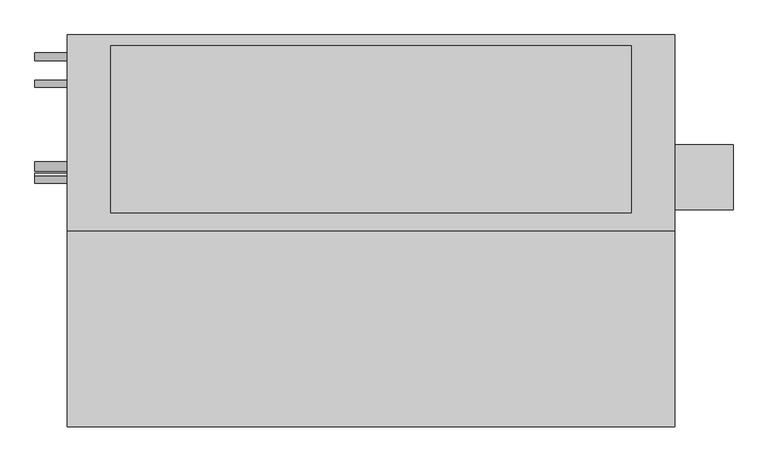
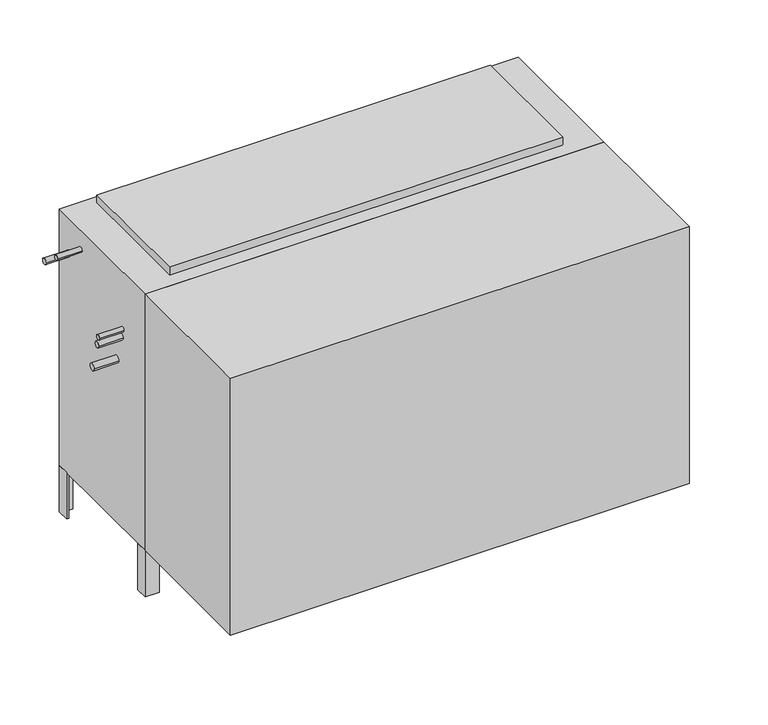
"""IFC4 building model written with IfcOpenShell, lengths in millimetres: proxy geometry, Concealed_High_Capacity_Vertical_Fan_Coil_Unit_-_42DDA_-_CARRIER_-_4-Pipe_LH_2022 : Size 20 - 277v/60Hz/1Ph - 4/2 Coil."""

from ifc_helpers import new_model, si_unit, point, frame, frame_2d, origin, origin_with_axes, place, context, project, spatial, polyline, circle_curve, trimmed, segment, composite_curve, outline, extrude, source, transform, mapped, element, save


def mechanical_equipment_18172840(model_context):
    return source(origin(), model_context, "Body", "SweptSolid", [
        extrude(outline(polyline([(863.6, -925.5125), (-558.8, -925.5125), (-558.8, -468.3125), (863.6, -468.3125), (863.6, -925.5125)])), origin_with_axes(), (0.0, 0.0, 1.0), 841.375),
        extrude(outline(polyline([(1000.125, -265.1125), (1000.125, -417.5125), (863.6, -417.5125), (863.6, -265.1125), (1000.125, -265.1125)])), frame((0.0, 0.0, 101.6), z_axis=(0.0, 0.0, 1.0), x_axis=(1.0, 0.0, 0.0)), (0.0, 0.0, 1.0), 152.4),
        extrude(outline(polyline([(863.6, -46.0375), (857.25, -46.0375), (857.25, -14.2875), (825.5, -14.2875), (825.5, -7.9375), (863.6, -7.9375), (863.6, -46.0375)])), frame((0.0, 0.0, -152.4), z_axis=(0.0, 0.0, 1.0), x_axis=(1.0, 0.0, 0.0)), (0.0, 0.0, 1.0), 152.4),
        extrude(outline(polyline([(-520.7, -7.9375), (-520.7, -14.2875), (-552.45, -14.2875), (-552.45, -46.0375), (-558.8, -46.0375), (-558.8, -7.9375), (-520.7, -7.9375)])), frame((0.0, 0.0, -152.4), z_axis=(0.0, 0.0, 1.0), x_axis=(1.0, 0.0, 0.0)), (0.0, 0.0, 1.0), 152.4),
        extrude(outline(polyline([(825.5, -468.3125), (825.5, -461.9625), (857.25, -461.9625), (857.25, -430.2125), (863.6, -430.2125), (863.6, -468.3125), (825.5, -468.3125)])), frame((0.0, 0.0, -152.4), z_axis=(0.0, 0.0, 1.0), x_axis=(1.0, 0.0, 0.0)), (0.0, 0.0, 1.0), 152.4),
        extrude(outline(polyline([(-558.8, -428.1199163), (-552.45, -428.1199163), (-552.45, -461.9625), (-515.3318533, -461.9625), (-515.3318533, -468.3125), (-558.8, -468.3125), (-558.8, -428.1199163)])), frame((0.0, 0.0, -152.4), z_axis=(0.0, 0.0, 1.0), x_axis=(1.0, 0.0, 0.0)), (0.0, 0.0, 1.0), 152.4),
        extrude(outline(polyline([(762.0, -33.3375), (762.0, -423.8625), (-457.2, -423.8625), (-457.2, -33.3375), (762.0, -33.3375)])), frame((0.0, 0.0, 841.375), z_axis=(0.0, 0.0, 1.0), x_axis=(1.0, 0.0, 0.0)), (0.0, 0.0, 1.0), 25.4),
        extrude(outline(polyline([(838.2, -471.4875), (-533.4, -471.4875), (-533.4, -468.3125), (838.2, -468.3125), (838.2, -471.4875)])), frame((0.0, 0.0, 50.8), z_axis=(0.0, 0.0, 1.0), x_axis=(1.0, 0.0, 0.0)), (0.0, 0.0, 1.0), 304.8),
        extrude(outline(composite_curve([segment(trimmed(circle_curve(frame_2d((-122.2375, 777.875)), 7.9375), [point((-130.175, 777.875))], [point((-114.3, 777.875))], False, "CARTESIAN"), True, "CONTINUOUS"), segment(trimmed(circle_curve(frame_2d((-122.2375, 777.875)), 7.9375), [point((-114.3, 777.875))], [point((-130.175, 777.875))], False, "CARTESIAN"), True, "CONTINUOUS")], self_intersect=False)), frame((-635.0, 0.0, 0.0), z_axis=(1.0, 0.0, 0.0), x_axis=(0.0, 1.0, 0.0)), (0.0, 0.0, 1.0), 76.2),
        extrude(outline(composite_curve([segment(trimmed(circle_curve(frame_2d((-347.3848135, 653.2230057)), 7.9375), [point((-355.3223135, 653.2230057))], [point((-339.4473135, 653.2230057))], False, "CARTESIAN"), True, "CONTINUOUS"), segment(trimmed(circle_curve(frame_2d((-347.3848135, 653.2230057)), 7.9375), [point((-339.4473135, 653.2230057))], [point((-355.3223135, 653.2230057))], False, "CARTESIAN"), True, "CONTINUOUS")], self_intersect=False)), frame((-635.0, 0.0, 0.0), z_axis=(1.0, 0.0, 0.0), x_axis=(0.0, 1.0, 0.0)), (0.0, 0.0, 1.0), 76.2),
        extrude(outline(composite_curve([segment(trimmed(circle_curve(frame_2d((-58.7375, 727.075)), 9.525), [point((-68.2625, 727.075))], [point((-49.2125, 727.075))], False, "CARTESIAN"), True, "CONTINUOUS"), segment(trimmed(circle_curve(frame_2d((-58.7375, 727.075)), 9.525), [point((-49.2125, 727.075))], [point((-68.2625, 727.075))], False, "CARTESIAN"), True, "CONTINUOUS")], self_intersect=False)), frame((-635.0, 0.0, 0.0), z_axis=(1.0, 0.0, 0.0), x_axis=(0.0, 1.0, 0.0)), (0.0, 0.0, 1.0), 76.2),
        extrude(outline(composite_curve([segment(trimmed(circle_curve(frame_2d((-341.3125, 625.475)), 9.525), [point((-350.8375, 625.475))], [point((-331.7875, 625.475))], False, "CARTESIAN"), True, "CONTINUOUS"), segment(trimmed(circle_curve(frame_2d((-341.3125, 625.475)), 9.525), [point((-331.7875, 625.475))], [point((-350.8375, 625.475))], False, "CARTESIAN"), True, "CONTINUOUS")], self_intersect=False)), frame((-635.0, 0.0, 0.0), z_axis=(1.0, 0.0, 0.0), x_axis=(0.0, 1.0, 0.0)), (0.0, 0.0, 1.0), 76.2),
        extrude(outline(composite_curve([segment(trimmed(circle_curve(frame_2d((-315.9125, 536.575)), 11.1125), [point((-327.025, 536.575))], [point((-304.8, 536.575))], False, "CARTESIAN"), True, "CONTINUOUS"), segment(trimmed(circle_curve(frame_2d((-315.9125, 536.575)), 11.1125), [point((-304.8, 536.575))], [point((-327.025, 536.575))], False, "CARTESIAN"), True, "CONTINUOUS")], self_intersect=False)), frame((-635.0, 0.0, 0.0), z_axis=(1.0, 0.0, 0.0), x_axis=(0.0, 1.0, 0.0)), (0.0, 0.0, 1.0), 76.2),
        extrude(outline(polyline([(863.6, -7.9375), (863.6, -468.3125), (-558.8, -468.3125), (-558.8, -7.9375), (863.6, -7.9375)])), origin_with_axes(), (0.0, 0.0, 1.0), 841.375),
    ])


if __name__ == "__main__":
    model = new_model("IFC4")
    model_context = context("Model", 3, world=origin())
    ifc_project = project(units=[si_unit("LENGTHUNIT", "METRE", prefix="MILLI")], contexts=[model_context])
    site = spatial("IfcSite", under=ifc_project)
    building = spatial("IfcBuilding", under=site)
    placement = place(None, origin())
    mechanical_equipment_shape = mechanical_equipment_18172840(model_context)
    element("IfcBuildingElementProxy", 1, Name="Concealed_High_Capacity_Vertical_Fan_Coil_Unit_-_42DDA_-_CARRIER_-_4-Pipe_LH_2022 : Size 20 - 277v/60Hz/1Ph - 4/2 Coil", ObjectType="Concealed_High_Capacity_Vertical_Fan_Coil_Unit_-_42DDA_-_CARRIER_-_4-Pipe_LH_2022 : Size 20 - 277v/60Hz/1Ph - 4/2 Coil", at=placement, inside=building, context=model_context, shape_type="MappedRepresentation", body=[
        mapped(mechanical_equipment_shape, transform((0.0, 0.0, 0.0), x_axis=(1.0, 0.0, 0.0), y_axis=(0.0, 1.0, 0.0), z_axis=(0.0, 0.0, 1.0))),
    ])
    save(model, "model.ifc")
